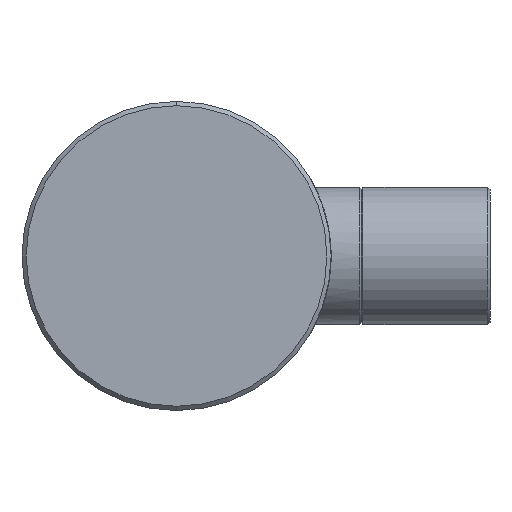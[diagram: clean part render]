
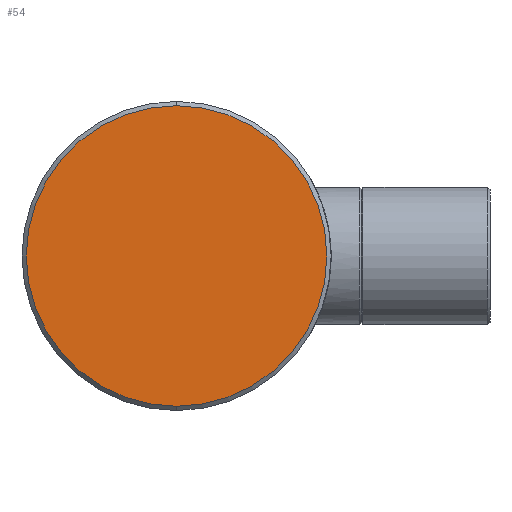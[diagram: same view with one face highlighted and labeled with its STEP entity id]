
A CAD part, left-side view. The second image highlights one B-rep face of the part: STEP entity #54.
In plain terms, the highlighted planar face has unit normal (-1, 0, 0).
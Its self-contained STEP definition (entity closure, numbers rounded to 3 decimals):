
#24 = DIRECTION ( 'NONE',  ( 0., 0., -1. ) ) ;
#27 = VERTEX_POINT ( 'NONE', #1263 ) ;
#54 = ADVANCED_FACE ( 'NONE', ( #1314 ), #213, .T. ) ;
#213 = PLANE ( 'NONE',  #807 ) ;
#223 = DIRECTION ( 'NONE',  ( -1., 0., 0. ) ) ;
#412 = CIRCLE ( 'NONE', #1089, 17.5 ) ;
#502 = CARTESIAN_POINT ( 'NONE',  ( -175.326, 0., 0. ) ) ;
#547 = EDGE_LOOP ( 'NONE', ( #921, #649 ) ) ;
#600 = CARTESIAN_POINT ( 'NONE',  ( -175.326, 0., 0. ) ) ;
#604 = DIRECTION ( 'NONE',  ( 1., 0., 0. ) ) ;
#649 = ORIENTED_EDGE ( 'NONE', *, *, #1361, .F. ) ;
#774 = CIRCLE ( 'NONE', #1476, 17.5 ) ;
#807 = AXIS2_PLACEMENT_3D ( 'NONE', #916, #223, #1033 ) ;
#916 = CARTESIAN_POINT ( 'NONE',  ( -175.326, 0., 0. ) ) ;
#921 = ORIENTED_EDGE ( 'NONE', *, *, #1463, .F. ) ;
#1033 = DIRECTION ( 'NONE',  ( 0., 0., 1. ) ) ;
#1085 = VERTEX_POINT ( 'NONE', #1318 ) ;
#1089 = AXIS2_PLACEMENT_3D ( 'NONE', #600, #604, #24 ) ;
#1091 = DIRECTION ( 'NONE',  ( 0., 0., -1. ) ) ;
#1263 = CARTESIAN_POINT ( 'NONE',  ( -175.326, 0., 17.5 ) ) ;
#1314 = FACE_OUTER_BOUND ( 'NONE', #547, .T. ) ;
#1318 = CARTESIAN_POINT ( 'NONE',  ( -175.326, 0., -17.5 ) ) ;
#1361 = EDGE_CURVE ( 'NONE', #27, #1085, #412, .T. ) ;
#1438 = DIRECTION ( 'NONE',  ( 1., 0., 0. ) ) ;
#1463 = EDGE_CURVE ( 'NONE', #1085, #27, #774, .T. ) ;
#1476 = AXIS2_PLACEMENT_3D ( 'NONE', #502, #1438, #1091 ) ;
